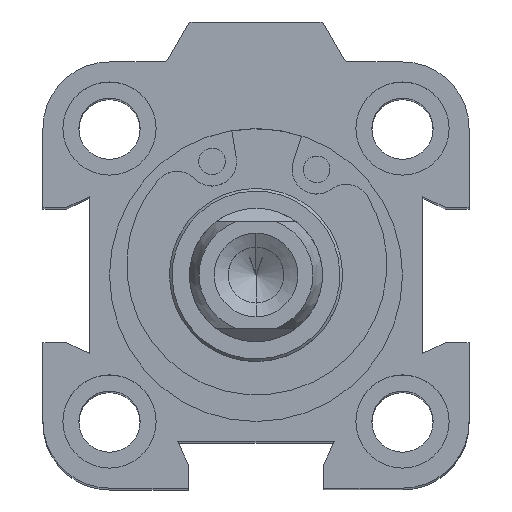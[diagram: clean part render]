
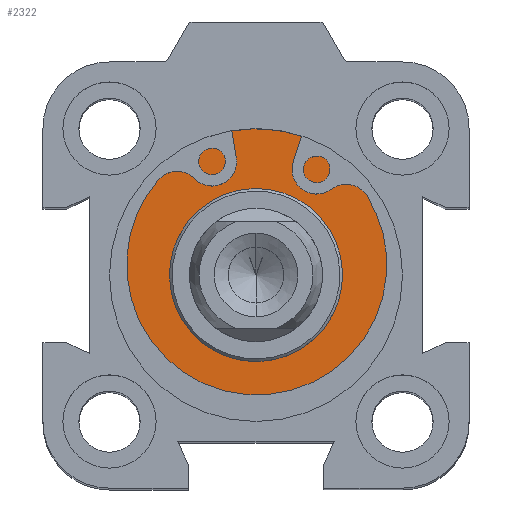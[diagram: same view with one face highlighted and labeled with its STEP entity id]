
A CAD part, top view. The second image highlights one B-rep face of the part: STEP entity #2322.
In plain terms, the highlighted planar face has unit normal (0, 0, 1).
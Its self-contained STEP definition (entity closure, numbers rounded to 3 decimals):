
#207 = AXIS2_PLACEMENT_3D ( 'NONE', #6492, #5012, #1072 ) ;
#286 = EDGE_CURVE ( 'NONE', #1511, #8493, #3293, .T. ) ;
#391 = FACE_BOUND ( 'NONE', #5840, .T. ) ;
#746 = ORIENTED_EDGE ( 'NONE', *, *, #8206, .T. ) ;
#896 = ORIENTED_EDGE ( 'NONE', *, *, #286, .F. ) ;
#1072 = DIRECTION ( 'NONE',  ( 0.882, -0.471, 0. ) ) ;
#1511 = VERTEX_POINT ( 'NONE', #5882 ) ;
#1883 = DIRECTION ( 'NONE',  ( 0., 0., 1. ) ) ;
#2288 = DIRECTION ( 'NONE',  ( 0.471, 0.882, 0. ) ) ;
#2322 = ADVANCED_FACE ( 'NONE', ( #391, #6340 ), #6090, .F. ) ;
#2515 = EDGE_LOOP ( 'NONE', ( #9289, #746 ) ) ;
#2614 = DIRECTION ( 'NONE',  ( 0., 0., 1. ) ) ;
#2731 = DIRECTION ( 'NONE',  ( 0.882, -0.471, 0. ) ) ;
#3134 = CIRCLE ( 'NONE', #207, 11. ) ;
#3169 = DIRECTION ( 'NONE',  ( 0., 0., 1. ) ) ;
#3207 = CIRCLE ( 'NONE', #8614, 11. ) ;
#3293 = CIRCLE ( 'NONE', #9081, 6.5 ) ;
#3874 = CARTESIAN_POINT ( 'NONE',  ( 0., 0., -2.6 ) ) ;
#3888 = CARTESIAN_POINT ( 'NONE',  ( 0., 0., -2.6 ) ) ;
#4024 = CIRCLE ( 'NONE', #9958, 6.5 ) ;
#4214 = VERTEX_POINT ( 'NONE', #7539 ) ;
#4552 = CARTESIAN_POINT ( 'NONE',  ( 3.063, 5.733, -2.6 ) ) ;
#4718 = DIRECTION ( 'NONE',  ( 0., 0., -1. ) ) ;
#5012 = DIRECTION ( 'NONE',  ( 0., 0., 1. ) ) ;
#5222 = VERTEX_POINT ( 'NONE', #5568 ) ;
#5457 = EDGE_CURVE ( 'NONE', #8493, #1511, #4024, .T. ) ;
#5568 = CARTESIAN_POINT ( 'NONE',  ( -9.702, 5.184, -2.6 ) ) ;
#5819 = CARTESIAN_POINT ( 'NONE',  ( -5.733, 3.063, -2.6 ) ) ;
#5840 = EDGE_LOOP ( 'NONE', ( #896, #8341 ) ) ;
#5882 = CARTESIAN_POINT ( 'NONE',  ( 5.733, -3.063, -2.6 ) ) ;
#6090 = PLANE ( 'NONE',  #7372 ) ;
#6256 = DIRECTION ( 'NONE',  ( 0.882, -0.471, 0. ) ) ;
#6340 = FACE_OUTER_BOUND ( 'NONE', #2515, .T. ) ;
#6492 = CARTESIAN_POINT ( 'NONE',  ( 0., 0., -2.6 ) ) ;
#6945 = EDGE_CURVE ( 'NONE', #4214, #5222, #3134, .T. ) ;
#7372 = AXIS2_PLACEMENT_3D ( 'NONE', #4552, #4718, #2288 ) ;
#7539 = CARTESIAN_POINT ( 'NONE',  ( 9.702, -5.184, -2.6 ) ) ;
#8175 = DIRECTION ( 'NONE',  ( 0.882, -0.471, 0. ) ) ;
#8206 = EDGE_CURVE ( 'NONE', #5222, #4214, #3207, .T. ) ;
#8341 = ORIENTED_EDGE ( 'NONE', *, *, #5457, .F. ) ;
#8493 = VERTEX_POINT ( 'NONE', #5819 ) ;
#8614 = AXIS2_PLACEMENT_3D ( 'NONE', #3874, #3169, #6256 ) ;
#9081 = AXIS2_PLACEMENT_3D ( 'NONE', #9108, #1883, #2731 ) ;
#9108 = CARTESIAN_POINT ( 'NONE',  ( 0., 0., -2.6 ) ) ;
#9289 = ORIENTED_EDGE ( 'NONE', *, *, #6945, .T. ) ;
#9958 = AXIS2_PLACEMENT_3D ( 'NONE', #3888, #2614, #8175 ) ;
